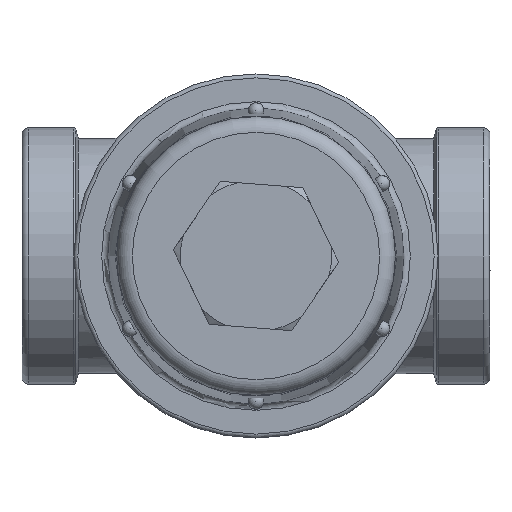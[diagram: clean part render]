
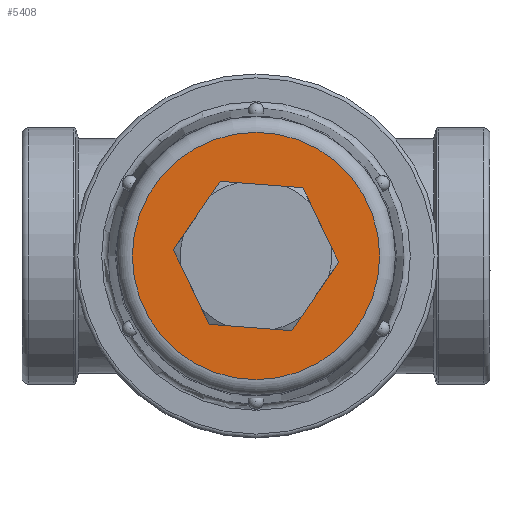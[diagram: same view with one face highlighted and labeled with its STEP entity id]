
A CAD part, front view. The second image highlights one B-rep face of the part: STEP entity #5408.
In plain terms, the highlighted planar face has unit normal (0, -1, 0).
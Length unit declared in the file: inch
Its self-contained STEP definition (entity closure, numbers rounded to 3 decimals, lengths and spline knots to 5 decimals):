
#1084=PLANE('',#5733);
#1639=B_SPLINE_CURVE_WITH_KNOTS('',3,(#12734,#12735,#12736,#12737,#12738,
#12739,#12740,#12741,#12742,#12743,#12744,#12745,#12746,#12747,#12748,#12749),
 .UNSPECIFIED.,.F.,.U.,(4,2,2,2,2,2,2,4),(0.,0.41145,0.61163,
0.80998,1.21376,1.60546,1.93788,2.26304),
 .UNSPECIFIED.);
#1650=B_SPLINE_CURVE_WITH_KNOTS('',3,(#19342,#19343,#19344,#19345,#19346,
#19347,#19348,#19349,#19350,#19351,#19352,#19353,#19354,#19355,#19356,#19357,
#19358,#19359),.UNSPECIFIED.,.F.,.U.,(4,2,2,2,2,2,2,2,4),(0.,0.2601,
0.52274,0.8999,1.31513,1.77401,2.24209,
2.63266,3.03035),.UNSPECIFIED.);
#1882=VERTEX_POINT('',#12733);
#1883=VERTEX_POINT('',#12750);
#1887=VERTEX_POINT('',#13534);
#1888=VERTEX_POINT('',#13538);
#1894=VERTEX_POINT('',#19341);
#1922=VERTEX_POINT('',#23727);
#2352=CIRCLE('',#5673,0.40175);
#2353=CIRCLE('',#5675,0.40175);
#2354=CIRCLE('',#5683,0.41788);
#2378=CIRCLE('',#5729,0.94057);
#2528=EDGE_CURVE('',#1883,#1882,#1639,.T.);
#2533=EDGE_CURVE('',#1882,#1887,#2352,.T.);
#2535=EDGE_CURVE('',#1887,#1888,#2353,.T.);
#2543=EDGE_CURVE('',#1888,#1894,#1650,.T.);
#2555=EDGE_CURVE('',#1894,#1883,#2354,.T.);
#2580=EDGE_CURVE('',#1922,#1922,#2378,.T.);
#3352=ORIENTED_EDGE('',*,*,#2543,.T.);
#3353=ORIENTED_EDGE('',*,*,#2555,.T.);
#3354=ORIENTED_EDGE('',*,*,#2528,.T.);
#3355=ORIENTED_EDGE('',*,*,#2533,.T.);
#3356=ORIENTED_EDGE('',*,*,#2535,.T.);
#3357=ORIENTED_EDGE('',*,*,#2580,.F.);
#4648=EDGE_LOOP('',(#3352,#3353,#3354,#3355,#3356));
#4649=EDGE_LOOP('',(#3357));
#5040=FACE_BOUND('',#4648,.T.);
#5041=FACE_BOUND('',#4649,.T.);
#5408=ADVANCED_FACE('',(#5040,#5041),#1084,.T.);
#5673=AXIS2_PLACEMENT_3D('',#13533,#79476,#79477);
#5675=AXIS2_PLACEMENT_3D('',#13537,#79481,#79482);
#5683=AXIS2_PLACEMENT_3D('',#19961,#79503,#79504);
#5729=AXIS2_PLACEMENT_3D('',#23726,#79583,#79584);
#5733=AXIS2_PLACEMENT_3D('',#24080,#79591,$);
#12733=CARTESIAN_POINT('',(-0.17928,-3.81,-0.35953));
#12734=CARTESIAN_POINT('',(0.15803,-3.81,-0.38782));
#12735=CARTESIAN_POINT('',(0.10711,-3.81,-0.40579));
#12736=CARTESIAN_POINT('',(0.05315,-3.81,-0.41373));
#12737=CARTESIAN_POINT('',(-0.02701,-3.81,-0.40965));
#12738=CARTESIAN_POINT('',(-0.05312,-3.81,-0.40579));
#12739=CARTESIAN_POINT('',(-0.10387,-3.81,-0.3932));
#12740=CARTESIAN_POINT('',(-0.12831,-3.81,-0.38456));
#12741=CARTESIAN_POINT('',(-0.19964,-3.81,-0.35135));
#12742=CARTESIAN_POINT('',(-0.2424,-3.81,-0.32006));
#12743=CARTESIAN_POINT('',(-0.31225,-3.81,-0.24374));
#12744=CARTESIAN_POINT('',(-0.339,-3.81,-0.1999));
#12745=CARTESIAN_POINT('',(-0.37137,-3.81,-0.11165));
#12746=CARTESIAN_POINT('',(-0.37944,-3.81,-0.06863));
#12747=CARTESIAN_POINT('',(-0.3806,-3.81,0.01729));
#12748=CARTESIAN_POINT('',(-0.37406,-3.81,0.0597));
#12749=CARTESIAN_POINT('',(-0.36045,-3.81,0.10014));
#12750=CARTESIAN_POINT('',(0.14019,-3.81,-0.39367));
#13533=CARTESIAN_POINT('',(0.,-3.81,0.));
#13534=CARTESIAN_POINT('',(0.0591,-3.81,0.39738));
#13537=CARTESIAN_POINT('',(0.,-3.81,0.));
#13538=CARTESIAN_POINT('',(0.32994,-3.81,0.22921));
#19341=CARTESIAN_POINT('',(0.40716,-3.81,-0.09406));
#19342=CARTESIAN_POINT('',(-0.24129,-3.81,0.27963));
#19343=CARTESIAN_POINT('',(-0.21665,-3.81,0.30325));
#19344=CARTESIAN_POINT('',(-0.18893,-3.81,0.3233));
#19345=CARTESIAN_POINT('',(-0.12814,-3.81,0.35563));
#19346=CARTESIAN_POINT('',(-0.09555,-3.81,0.36758));
#19347=CARTESIAN_POINT('',(-0.01277,-3.81,0.38552));
#19348=CARTESIAN_POINT('',(0.03757,-3.81,0.38639));
#19349=CARTESIAN_POINT('',(0.14109,-3.81,0.36797));
#19350=CARTESIAN_POINT('',(0.18863,-3.81,0.3476));
#19351=CARTESIAN_POINT('',(0.27153,-3.81,0.2949));
#19352=CARTESIAN_POINT('',(0.30924,-3.81,0.25896));
#19353=CARTESIAN_POINT('',(0.3697,-3.81,0.17361));
#19354=CARTESIAN_POINT('',(0.39146,-3.81,0.12499));
#19355=CARTESIAN_POINT('',(0.41335,-3.81,0.03024));
#19356=CARTESIAN_POINT('',(0.41623,-3.81,-0.01409));
#19357=CARTESIAN_POINT('',(0.40794,-3.81,-0.10273));
#19358=CARTESIAN_POINT('',(0.39652,-3.81,-0.1464));
#19359=CARTESIAN_POINT('',(0.37856,-3.81,-0.18733));
#19961=CARTESIAN_POINT('',(0.,-3.81,0.));
#23726=CARTESIAN_POINT('',(0.,-3.81,0.));
#23727=CARTESIAN_POINT('',(0.94057,-3.81,0.));
#24080=CARTESIAN_POINT('',(0.,-3.81,0.));
#79476=DIRECTION('',(0.,1.,0.));
#79477=DIRECTION('',(-0.059,0.,-0.397));
#79481=DIRECTION('',(0.,1.,0.));
#79482=DIRECTION('',(-0.059,0.,-0.397));
#79503=DIRECTION('',(0.,1.,0.));
#79504=DIRECTION('',(0.061,0.,0.413));
#79583=DIRECTION('',(0.,1.,0.));
#79584=DIRECTION('',(-0.941,0.,0.));
#79591=DIRECTION('',(0.,-1.,0.));
